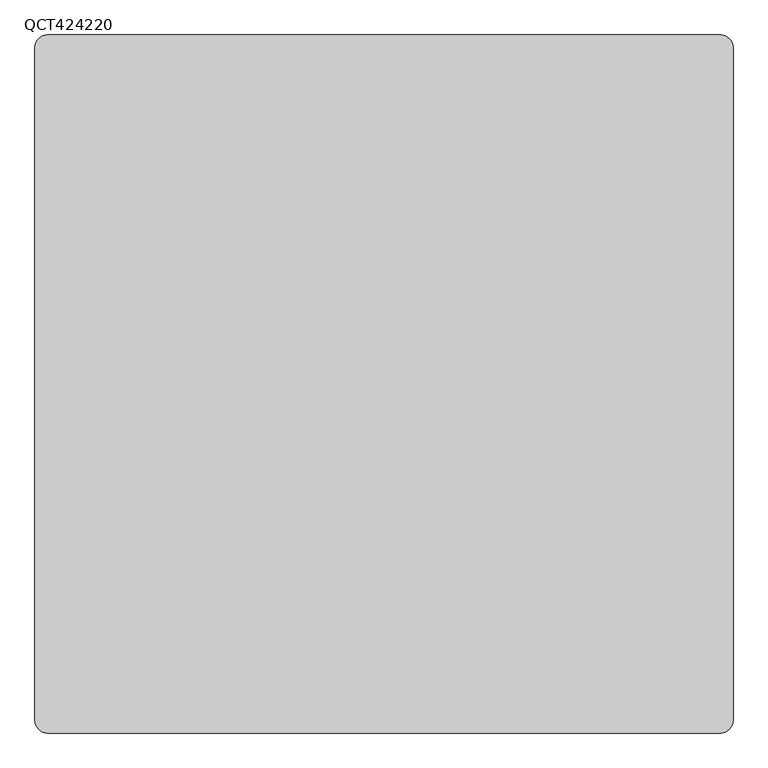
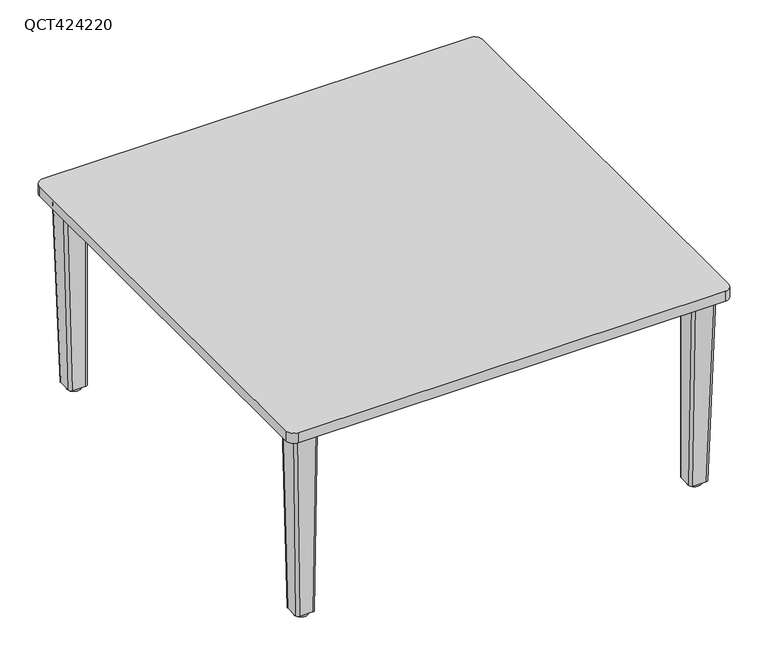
"""IFC4 building model written with IfcOpenShell, lengths in millimetres: furniture geometry, Leland-Quince-Table_Square : QCT424220."""

from ifc_helpers import new_model, si_unit, point, frame, frame_2d, origin, origin_with_axes, place, context, project, spatial, polyline, circle_curve, trimmed, segment, composite_curve, outline, extrude, source, transform, mapped, element, save
from ifc_brep_helpers import plane_surface, cylinder_surface, extruded_surface, advanced_brep


def qct424220_80bd4fbd(model_context):
    return source(origin(), model_context, "Body", "SolidModel", [
        advanced_brep(
        [(502.4299122, -451.6482078, 477.8487443), (457.9799122, -451.6482078, 477.8487443), (451.6299122, -457.9982078, 477.8487443), (451.6299122, -502.4482078, 477.8487443), (457.9799122, -508.7982078, 477.8487443), (502.4299122, -508.7982078, 477.8487443), (508.7799122, -502.4482078, 477.8487443), (508.7799122, -457.9982078, 477.8487443), (490.1392552, -451.6482078, 9.5377), (496.4892552, -457.9982078, 9.5377), (496.4892552, -490.1651364, 9.5377), (490.1392552, -496.5151364, 9.5377), (457.9799122, -496.5151364, 9.5377), (451.6299122, -490.1651364, 9.5377), (451.6299122, -457.9982078, 9.5377), (457.9799122, -451.6482078, 9.5377)],
        [
            (0, 1),
            (1, 2, circle_curve(frame((457.9799122, -457.9982078, 477.8487443), z_axis=(0.0, 0.0, 1.0), x_axis=(-1.0, 0.0, 0.0)), 6.35)),
            (2, 3),
            (3, 4, circle_curve(frame((457.9799122, -502.4482078, 477.8487443), z_axis=(0.0, 0.0, 1.0), x_axis=(-1.0, 0.0, 0.0)), 6.35)),
            (4, 5),
            (5, 6, circle_curve(frame((502.4299122, -502.4482078, 477.8487443), z_axis=(0.0, 0.0, 1.0), x_axis=(-1.0, 0.0, 0.0)), 6.35)),
            (6, 7),
            (7, 0, circle_curve(frame((502.4299122, -457.9982078, 477.8487443), z_axis=(0.0, 0.0, 1.0), x_axis=(-1.0, 0.0, 0.0)), 6.35)),
            (8, 9, circle_curve(frame((490.1392552, -457.9982078, 9.5377), z_axis=(0.0, 0.0, -1.0), x_axis=(-1.0, 0.0, 0.0)), 6.35)),
            (9, 10),
            (10, 11, circle_curve(frame((490.1392552, -490.1651364, 9.5377), z_axis=(0.0, 0.0, -1.0), x_axis=(-1.0, 0.0, 0.0)), 6.35)),
            (11, 12),
            (12, 13, circle_curve(frame((457.9799122, -490.1651364, 9.5377), z_axis=(0.0, 0.0, -1.0), x_axis=(-1.0, 0.0, 0.0)), 6.35)),
            (13, 14),
            (14, 15, circle_curve(frame((457.9799122, -457.9982078, 9.5377), z_axis=(0.0, 0.0, -1.0), x_axis=(-1.0, 0.0, 0.0)), 6.35)),
            (15, 8),
            (8, 0),
            (7, 9),
            (6, 10),
            (5, 11),
            (4, 12),
            (3, 13),
            (2, 14),
            (1, 15),
        ],
        [
            plane_surface(frame((480.2049122, -480.2232078, 477.8487443), z_axis=(0.0, 0.0, 1.0), x_axis=(1.0, 0.0, 0.0))),
            plane_surface(frame((474.0595837, -474.0816721, 9.5377), z_axis=(0.0, 0.0, -1.0), x_axis=(1.0, 0.0, 0.0))),
            extruded_surface(trimmed(circle_curve(frame((490.1392552, -457.9982078, 9.5377), z_axis=(0.0, 0.0, 1.0), x_axis=(-1.0, 0.0, 0.0)), 6.35), [point((496.4892552, -457.9982078, 9.5377))], [point((490.1392552, -451.6482078, 9.5377))], True, "CARTESIAN"), (12.29065700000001, 0.0, 468.31104430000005), 468.47229850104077),
            plane_surface(frame((496.4892552, -474.0816721, 9.5377), z_axis=(0.9996557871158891, 0.0, -0.026235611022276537), x_axis=(0.0, 1.0, 0.0))),
            extruded_surface(trimmed(circle_curve(frame((490.1392552, -490.1651364, 9.5377), z_axis=(0.0, 0.0, 1.0), x_axis=(-1.0, 0.0, 0.0)), 6.35), [point((490.1392552, -496.5151364, 9.5377))], [point((496.4892552, -490.1651364, 9.5377))], True, "CARTESIAN"), (12.29065700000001, -12.283071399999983, 468.31104430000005), 468.63329833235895),
            plane_surface(frame((474.0595837, -496.5151364, 9.5377), z_axis=(0.0, -0.9996562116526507, -0.026219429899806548), x_axis=(1.0, 0.0, 0.0))),
            extruded_surface(trimmed(circle_curve(frame((457.9799122, -490.1651364, 9.5377), z_axis=(0.0, 0.0, 1.0), x_axis=(-1.0, 0.0, 0.0)), 6.35), [point((451.6299122, -490.1651364, 9.5377))], [point((457.9799122, -496.5151364, 9.5377))], True, "CARTESIAN"), (0.0, -12.283071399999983, 468.31104430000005), 468.47209954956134),
            plane_surface(frame((451.6299122, -474.0816721, 9.5377), z_axis=(-1.0, 0.0, 0.0), x_axis=(0.0, -1.0, 0.0))),
            cylinder_surface(frame((457.9799122, -457.9982078, 9.5377), z_axis=(0.0, 0.0, 1.0), x_axis=(-1.0, 0.0, 0.0)), 6.35),
            plane_surface(frame((474.0595837, -451.6482078, 9.5377), z_axis=(0.0, 1.0, 0.0), x_axis=(-1.0, 0.0, 0.0))),
        ],
        [
            (0, [[1, 2, 3, 4, 5, 6, 7, 8]]),
            (1, [[9, 10, 11, 12, 13, 14, 15, 16]]),
            (2, [[-9, 17, -8, 18]]),
            (3, [[-10, -18, -7, 19]]),
            (4, [[-11, -19, -6, 20]]),
            (5, [[-12, -20, -5, 21]]),
            (6, [[-13, -21, -4, 22]]),
            (7, [[-14, -22, -3, 23]]),
            (8, [[-15, -23, -2, 24]]),
            (9, [[-16, -24, -1, -17]]),
        ],
    ),
        advanced_brep(
        [(-502.4299122, -451.6482078, 477.8487443), (-508.7799122, -457.9982078, 477.8487443), (-508.7799122, -502.4482078, 477.8487443), (-502.4299122, -508.7982078, 477.8487443), (-457.9799122, -508.7982078, 477.8487443), (-451.6299122, -502.4482078, 477.8487443), (-451.6299122, -457.9982078, 477.8487443), (-457.9799122, -451.6482078, 477.8487443), (-490.1392552, -451.6482078, 9.5377), (-457.9799122, -451.6482078, 9.5377), (-451.6299122, -457.9982078, 9.5377), (-451.6299122, -490.1651364, 9.5377), (-457.9799122, -496.5151364, 9.5377), (-490.1392552, -496.5151364, 9.5377), (-496.4892552, -490.1651364, 9.5377), (-496.4892552, -457.9982078, 9.5377)],
        [
            (0, 1, circle_curve(frame((-502.4299122, -457.9982078, 477.8487443), z_axis=(0.0, 0.0, 1.0), x_axis=(1.0, 0.0, 0.0)), 6.35)),
            (1, 2),
            (2, 3, circle_curve(frame((-502.4299122, -502.4482078, 477.8487443), z_axis=(0.0, 0.0, 1.0), x_axis=(1.0, 0.0, 0.0)), 6.35)),
            (3, 4),
            (4, 5, circle_curve(frame((-457.9799122, -502.4482078, 477.8487443), z_axis=(0.0, 0.0, 1.0), x_axis=(1.0, 0.0, 0.0)), 6.35)),
            (5, 6),
            (6, 7, circle_curve(frame((-457.9799122, -457.9982078, 477.8487443), z_axis=(0.0, 0.0, 1.0), x_axis=(0.0, 1.0, 0.0)), 6.35)),
            (7, 0),
            (8, 9),
            (9, 10, circle_curve(frame((-457.9799122, -457.9982078, 9.5377), z_axis=(0.0, 0.0, -1.0), x_axis=(0.0, 1.0, 0.0)), 6.35)),
            (10, 11),
            (11, 12, circle_curve(frame((-457.9799122, -490.1651364, 9.5377), z_axis=(0.0, 0.0, -1.0), x_axis=(1.0, 0.0, 0.0)), 6.35)),
            (12, 13),
            (13, 14, circle_curve(frame((-490.1392552, -490.1651364, 9.5377), z_axis=(0.0, 0.0, -1.0), x_axis=(1.0, 0.0, 0.0)), 6.35)),
            (14, 15),
            (15, 8, circle_curve(frame((-490.1392552, -457.9982078, 9.5377), z_axis=(0.0, 0.0, -1.0), x_axis=(1.0, 0.0, 0.0)), 6.35)),
            (15, 1),
            (0, 8),
            (14, 2),
            (13, 3),
            (12, 4),
            (11, 5),
            (10, 6),
            (9, 7),
        ],
        [
            plane_surface(frame((-480.2049122, -480.2232078, 477.8487443), z_axis=(0.0, 0.0, 1.0), x_axis=(1.0, 0.0, 0.0))),
            plane_surface(frame((-474.0595837, -474.0816721, 9.5377), z_axis=(0.0, 0.0, -1.0), x_axis=(1.0, 0.0, 0.0))),
            extruded_surface(trimmed(circle_curve(frame((-490.1392552, -457.9982078, 9.5377), z_axis=(0.0, 0.0, 1.0), x_axis=(1.0, 0.0, 0.0)), 6.35), [point((-490.1392552, -451.6482078, 9.5377))], [point((-496.4892552, -457.9982078, 9.5377))], True, "CARTESIAN"), (-12.29065700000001, 0.0, 468.31104430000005), 468.47229850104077),
            plane_surface(frame((-496.4892552, -474.0816721, 9.5377), z_axis=(-0.9996557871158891, 0.0, -0.026235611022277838), x_axis=(0.0, -1.0, 0.0))),
            extruded_surface(trimmed(circle_curve(frame((-490.1392552, -490.1651364, 9.5377), z_axis=(0.0, 0.0, 1.0), x_axis=(1.0, 0.0, 0.0)), 6.35), [point((-496.4892552, -490.1651364, 9.5377))], [point((-490.1392552, -496.5151364, 9.5377))], True, "CARTESIAN"), (-12.29065700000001, -12.283071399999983, 468.31104430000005), 468.63329833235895),
            plane_surface(frame((-474.0595837, -496.5151364, 9.5377), z_axis=(0.0, -0.9996562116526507, -0.026219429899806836), x_axis=(1.0, 0.0, 0.0))),
            extruded_surface(trimmed(circle_curve(frame((-457.9799122, -490.1651364, 9.5377), z_axis=(0.0, 0.0, 1.0), x_axis=(1.0, 0.0, 0.0)), 6.35), [point((-457.9799122, -496.5151364, 9.5377))], [point((-451.6299122, -490.1651364, 9.5377))], True, "CARTESIAN"), (0.0, -12.283071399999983, 468.31104430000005), 468.47209954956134),
            plane_surface(frame((-451.6299122, -474.0816721, 9.5377), z_axis=(1.0, 0.0, 0.0), x_axis=(0.0, 1.0, 0.0))),
            cylinder_surface(frame((-457.9799122, -457.9982078, 9.5377), z_axis=(0.0, 0.0, 1.0), x_axis=(0.0, 1.0, 0.0)), 6.35),
            plane_surface(frame((-474.0595837, -451.6482078, 9.5377), z_axis=(0.0, 1.0, 0.0), x_axis=(-1.0, 0.0, 0.0))),
        ],
        [
            (0, [[1, 2, 3, 4, 5, 6, 7, 8]]),
            (1, [[9, 10, 11, 12, 13, 14, 15, 16]]),
            (2, [[-16, 17, -1, 18]]),
            (3, [[-15, 19, -2, -17]]),
            (4, [[-14, 20, -3, -19]]),
            (5, [[-13, 21, -4, -20]]),
            (6, [[-12, 22, -5, -21]]),
            (7, [[-11, 23, -6, -22]]),
            (8, [[-10, 24, -7, -23]]),
            (9, [[-9, -18, -8, -24]]),
        ],
    ),
        advanced_brep(
        [(502.4299122, 451.6482078, 477.8487443), (508.7799122, 457.9982078, 477.8487443), (508.7799122, 502.4482078, 477.8487443), (502.4299122, 508.7982078, 477.8487443), (457.9799122, 508.7982078, 477.8487443), (451.6299122, 502.4482078, 477.8487443), (451.6299122, 457.9982078, 477.8487443), (457.9799122, 451.6482078, 477.8487443), (490.1392552, 451.6482078, 9.5377), (457.9799122, 451.6482078, 9.5377), (451.6299122, 457.9982078, 9.5377), (451.6299122, 490.1651364, 9.5377), (457.9799122, 496.5151364, 9.5377), (490.1392552, 496.5151364, 9.5377), (496.4892552, 490.1651364, 9.5377), (496.4892552, 457.9982078, 9.5377)],
        [
            (0, 1, circle_curve(frame((502.4299122, 457.9982078, 477.8487443), z_axis=(0.0, 0.0, 1.0), x_axis=(-1.0, 0.0, 0.0)), 6.35)),
            (1, 2),
            (2, 3, circle_curve(frame((502.4299122, 502.4482078, 477.8487443), z_axis=(0.0, 0.0, 1.0), x_axis=(-1.0, 0.0, 0.0)), 6.35)),
            (3, 4),
            (4, 5, circle_curve(frame((457.9799122, 502.4482078, 477.8487443), z_axis=(0.0, 0.0, 1.0), x_axis=(-1.0, 0.0, 0.0)), 6.35)),
            (5, 6),
            (6, 7, circle_curve(frame((457.9799122, 457.9982078, 477.8487443), z_axis=(0.0, 0.0, 1.0), x_axis=(0.0, -1.0, 0.0)), 6.35)),
            (7, 0),
            (8, 9),
            (9, 10, circle_curve(frame((457.9799122, 457.9982078, 9.5377), z_axis=(0.0, 0.0, -1.0), x_axis=(0.0, -1.0, 0.0)), 6.35)),
            (10, 11),
            (11, 12, circle_curve(frame((457.9799122, 490.1651364, 9.5377), z_axis=(0.0, 0.0, -1.0), x_axis=(-1.0, 0.0, 0.0)), 6.35)),
            (12, 13),
            (13, 14, circle_curve(frame((490.1392552, 490.1651364, 9.5377), z_axis=(0.0, 0.0, -1.0), x_axis=(-1.0, 0.0, 0.0)), 6.35)),
            (14, 15),
            (15, 8, circle_curve(frame((490.1392552, 457.9982078, 9.5377), z_axis=(0.0, 0.0, -1.0), x_axis=(-1.0, 0.0, 0.0)), 6.35)),
            (15, 1),
            (0, 8),
            (14, 2),
            (13, 3),
            (12, 4),
            (11, 5),
            (10, 6),
            (9, 7),
        ],
        [
            plane_surface(frame((480.2049122, 480.2232078, 477.8487443), z_axis=(0.0, 0.0, 1.0), x_axis=(-1.0, 0.0, 0.0))),
            plane_surface(frame((474.0595837, 474.0816721, 9.5377), z_axis=(0.0, 0.0, -1.0), x_axis=(-1.0, 0.0, 0.0))),
            extruded_surface(trimmed(circle_curve(frame((490.1392552, 457.9982078, 9.5377), z_axis=(0.0, 0.0, 1.0), x_axis=(-1.0, 0.0, 0.0)), 6.35), [point((490.1392552, 451.6482078, 9.5377))], [point((496.4892552, 457.9982078, 9.5377))], True, "CARTESIAN"), (12.29065700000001, 0.0, 468.31104430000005), 468.47229850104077),
            plane_surface(frame((496.4892552, 474.0816721, 9.5377), z_axis=(0.9996557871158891, 0.0, -0.02623561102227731), x_axis=(0.0, 1.0, 0.0))),
            extruded_surface(trimmed(circle_curve(frame((490.1392552, 490.1651364, 9.5377), z_axis=(0.0, 0.0, 1.0), x_axis=(-1.0, 0.0, 0.0)), 6.35), [point((496.4892552, 490.1651364, 9.5377))], [point((490.1392552, 496.5151364, 9.5377))], True, "CARTESIAN"), (12.29065700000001, 12.283071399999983, 468.31104430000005), 468.63329833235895),
            plane_surface(frame((474.0595837, 496.5151364, 9.5377), z_axis=(0.0, 0.9996562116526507, -0.026219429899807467), x_axis=(-1.0, 0.0, 0.0))),
            extruded_surface(trimmed(circle_curve(frame((457.9799122, 490.1651364, 9.5377), z_axis=(0.0, 0.0, 1.0), x_axis=(-1.0, 0.0, 0.0)), 6.35), [point((457.9799122, 496.5151364, 9.5377))], [point((451.6299122, 490.1651364, 9.5377))], True, "CARTESIAN"), (0.0, 12.283071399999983, 468.31104430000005), 468.47209954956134),
            plane_surface(frame((451.6299122, 474.0816721, 9.5377), z_axis=(-1.0, 0.0, 0.0), x_axis=(0.0, -1.0, 0.0))),
            cylinder_surface(frame((457.9799122, 457.9982078, 9.5377), z_axis=(0.0, 0.0, 1.0), x_axis=(0.0, -1.0, 0.0)), 6.35),
            plane_surface(frame((474.0595837, 451.6482078, 9.5377), z_axis=(0.0, -1.0, 0.0), x_axis=(1.0, 0.0, 0.0))),
        ],
        [
            (0, [[1, 2, 3, 4, 5, 6, 7, 8]]),
            (1, [[9, 10, 11, 12, 13, 14, 15, 16]]),
            (2, [[-16, 17, -1, 18]]),
            (3, [[-15, 19, -2, -17]]),
            (4, [[-14, 20, -3, -19]]),
            (5, [[-13, 21, -4, -20]]),
            (6, [[-12, 22, -5, -21]]),
            (7, [[-11, 23, -6, -22]]),
            (8, [[-10, 24, -7, -23]]),
            (9, [[-9, -18, -8, -24]]),
        ],
    ),
        extrude(outline(composite_curve([segment(trimmed(circle_curve(frame_2d((-474.0595837, 474.0816721)), 16.66875), [point((-490.7283337, 474.0816721))], [point((-457.3908337, 474.0816721))], False, "CARTESIAN"), True, "CONTINUOUS"), segment(trimmed(circle_curve(frame_2d((-474.0595837, 474.0816721)), 16.66875), [point((-457.3908337, 474.0816721))], [point((-490.7283337, 474.0816721))], False, "CARTESIAN"), True, "CONTINUOUS")], self_intersect=False)), origin_with_axes(), (0.0, 0.0, 1.0), 9.5377),
        extrude(outline(composite_curve([segment(trimmed(circle_curve(frame_2d((474.0595837, 474.0816721)), 16.66875), [point((457.3908337, 474.0816721))], [point((490.7283337, 474.0816721))], False, "CARTESIAN"), True, "CONTINUOUS"), segment(trimmed(circle_curve(frame_2d((474.0595837, 474.0816721)), 16.66875), [point((490.7283337, 474.0816721))], [point((457.3908337, 474.0816721))], False, "CARTESIAN"), True, "CONTINUOUS")], self_intersect=False)), origin_with_axes(), (0.0, 0.0, 1.0), 9.5377),
        extrude(outline(composite_curve([segment(trimmed(circle_curve(frame_2d((-474.0595837, -474.0816721)), 16.66875), [point((-490.7283337, -474.0816721))], [point((-457.3908337, -474.0816721))], False, "CARTESIAN"), True, "CONTINUOUS"), segment(trimmed(circle_curve(frame_2d((-474.0595837, -474.0816721)), 16.66875), [point((-457.3908337, -474.0816721))], [point((-490.7283337, -474.0816721))], False, "CARTESIAN"), True, "CONTINUOUS")], self_intersect=False)), origin_with_axes(), (0.0, 0.0, 1.0), 9.5377),
        extrude(outline(composite_curve([segment(trimmed(circle_curve(frame_2d((474.0595837, -474.0816721)), 16.66875), [point((457.3908337, -474.0816721))], [point((490.7283337, -474.0816721))], False, "CARTESIAN"), True, "CONTINUOUS"), segment(trimmed(circle_curve(frame_2d((474.0595837, -474.0816721)), 16.66875), [point((490.7283337, -474.0816721))], [point((457.3908337, -474.0816721))], False, "CARTESIAN"), True, "CONTINUOUS")], self_intersect=False)), origin_with_axes(), (0.0, 0.0, 1.0), 9.5377),
        extrude(outline(polyline([(-404.01875, 505.61875), (-404.01875, 404.01875), (-505.61875, 404.01875), (-505.61875, 505.61875), (-404.01875, 505.61875)])), frame((0.0, 0.0, 477.8487443), z_axis=(0.0, 0.0, 1.0), x_axis=(1.0, 0.0, 0.0)), (0.0, 0.0, 1.0), 4.7625),
        extrude(outline(polyline([(404.01875, 505.61875), (505.61875, 505.61875), (505.61875, 404.01875), (404.01875, 404.01875), (404.01875, 505.61875)])), frame((0.0, 0.0, 477.8487443), z_axis=(0.0, 0.0, 1.0), x_axis=(1.0, 0.0, 0.0)), (0.0, 0.0, 1.0), 4.7625),
        extrude(outline(polyline([(-404.01875, -505.61875), (-505.61875, -505.61875), (-505.61875, -404.01875), (-404.01875, -404.01875), (-404.01875, -505.61875)])), frame((0.0, 0.0, 477.8487443), z_axis=(0.0, 0.0, 1.0), x_axis=(1.0, 0.0, 0.0)), (0.0, 0.0, 1.0), 4.7625),
        extrude(outline(polyline([(404.01875, -505.61875), (404.01875, -404.01875), (505.61875, -404.01875), (505.61875, -505.61875), (404.01875, -505.61875)])), frame((0.0, 0.0, 477.8487443), z_axis=(0.0, 0.0, 1.0), x_axis=(1.0, 0.0, 0.0)), (0.0, 0.0, 1.0), 4.7625),
        advanced_brep(
        [(-502.4299122, 451.6482078, 477.8487443), (-457.9799122, 451.6482078, 477.8487443), (-451.6299122, 457.9982078, 477.8487443), (-451.6299122, 502.4482078, 477.8487443), (-457.9799122, 508.7982078, 477.8487443), (-502.4299122, 508.7982078, 477.8487443), (-508.7799122, 502.4482078, 477.8487443), (-508.7799122, 457.9982078, 477.8487443), (-490.1392552, 451.6482078, 9.5377), (-496.4892552, 457.9982078, 9.5377), (-496.4892552, 490.1651364, 9.5377), (-490.1392552, 496.5151364, 9.5377), (-457.9799122, 496.5151364, 9.5377), (-451.6299122, 490.1651364, 9.5377), (-451.6299122, 457.9982078, 9.5377), (-457.9799122, 451.6482078, 9.5377)],
        [
            (0, 1),
            (1, 2, circle_curve(frame((-457.9799122, 457.9982078, 477.8487443), z_axis=(0.0, 0.0, 1.0), x_axis=(1.0, 0.0, 0.0)), 6.35)),
            (2, 3),
            (3, 4, circle_curve(frame((-457.9799122, 502.4482078, 477.8487443), z_axis=(0.0, 0.0, 1.0), x_axis=(1.0, 0.0, 0.0)), 6.35)),
            (4, 5),
            (5, 6, circle_curve(frame((-502.4299122, 502.4482078, 477.8487443), z_axis=(0.0, 0.0, 1.0), x_axis=(1.0, 0.0, 0.0)), 6.35)),
            (6, 7),
            (7, 0, circle_curve(frame((-502.4299122, 457.9982078, 477.8487443), z_axis=(0.0, 0.0, 1.0), x_axis=(1.0, 0.0, 0.0)), 6.35)),
            (8, 9, circle_curve(frame((-490.1392552, 457.9982078, 9.5377), z_axis=(0.0, 0.0, -1.0), x_axis=(1.0, 0.0, 0.0)), 6.35)),
            (9, 10),
            (10, 11, circle_curve(frame((-490.1392552, 490.1651364, 9.5377), z_axis=(0.0, 0.0, -1.0), x_axis=(1.0, 0.0, 0.0)), 6.35)),
            (11, 12),
            (12, 13, circle_curve(frame((-457.9799122, 490.1651364, 9.5377), z_axis=(0.0, 0.0, -1.0), x_axis=(1.0, 0.0, 0.0)), 6.35)),
            (13, 14),
            (14, 15, circle_curve(frame((-457.9799122, 457.9982078, 9.5377), z_axis=(0.0, 0.0, -1.0), x_axis=(1.0, 0.0, 0.0)), 6.35)),
            (15, 8),
            (8, 0),
            (7, 9),
            (6, 10),
            (5, 11),
            (4, 12),
            (3, 13),
            (2, 14),
            (1, 15),
        ],
        [
            plane_surface(frame((-480.2049122, 480.2232078, 477.8487443), z_axis=(0.0, 0.0, 1.0), x_axis=(-1.0, 0.0, 0.0))),
            plane_surface(frame((-474.0595837, 474.0816721, 9.5377), z_axis=(0.0, 0.0, -1.0), x_axis=(-1.0, 0.0, 0.0))),
            extruded_surface(trimmed(circle_curve(frame((-490.1392552, 457.9982078, 9.5377), z_axis=(0.0, 0.0, 1.0), x_axis=(1.0, 0.0, 0.0)), 6.35), [point((-496.4892552, 457.9982078, 9.5377))], [point((-490.1392552, 451.6482078, 9.5377))], True, "CARTESIAN"), (-12.29065700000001, 0.0, 468.31104430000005), 468.47229850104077),
            plane_surface(frame((-496.4892552, 474.0816721, 9.5377), z_axis=(-0.9996557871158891, 0.0, -0.02623561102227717), x_axis=(0.0, -1.0, 0.0))),
            extruded_surface(trimmed(circle_curve(frame((-490.1392552, 490.1651364, 9.5377), z_axis=(0.0, 0.0, 1.0), x_axis=(1.0, 0.0, 0.0)), 6.35), [point((-490.1392552, 496.5151364, 9.5377))], [point((-496.4892552, 490.1651364, 9.5377))], True, "CARTESIAN"), (-12.29065700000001, 12.283071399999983, 468.31104430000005), 468.63329833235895),
            plane_surface(frame((-474.0595837, 496.5151364, 9.5377), z_axis=(0.0, 0.9996562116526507, -0.02621942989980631), x_axis=(-1.0, 0.0, 0.0))),
            extruded_surface(trimmed(circle_curve(frame((-457.9799122, 490.1651364, 9.5377), z_axis=(0.0, 0.0, 1.0), x_axis=(1.0, 0.0, 0.0)), 6.35), [point((-451.6299122, 490.1651364, 9.5377))], [point((-457.9799122, 496.5151364, 9.5377))], True, "CARTESIAN"), (0.0, 12.283071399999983, 468.31104430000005), 468.47209954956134),
            plane_surface(frame((-451.6299122, 474.0816721, 9.5377), z_axis=(1.0, 0.0, 0.0), x_axis=(0.0, 1.0, 0.0))),
            cylinder_surface(frame((-457.9799122, 457.9982078, 9.5377), z_axis=(0.0, 0.0, 1.0), x_axis=(1.0, 0.0, 0.0)), 6.35),
            plane_surface(frame((-474.0595837, 451.6482078, 9.5377), z_axis=(0.0, -1.0, 0.0), x_axis=(1.0, 0.0, 0.0))),
        ],
        [
            (0, [[1, 2, 3, 4, 5, 6, 7, 8]]),
            (1, [[9, 10, 11, 12, 13, 14, 15, 16]]),
            (2, [[-9, 17, -8, 18]]),
            (3, [[-10, -18, -7, 19]]),
            (4, [[-11, -19, -6, 20]]),
            (5, [[-12, -20, -5, 21]]),
            (6, [[-13, -21, -4, 22]]),
            (7, [[-14, -22, -3, 23]]),
            (8, [[-15, -23, -2, 24]]),
            (9, [[-16, -24, -1, -17]]),
        ],
    ),
        extrude(outline(composite_curve([segment(trimmed(circle_curve(frame_2d((514.35, 514.35)), 19.05), [point((514.35, 533.4))], [point((533.4, 514.35))], False, "CARTESIAN"), True, "CONTINUOUS"), segment(polyline([(533.4, 514.35), (533.4, -514.35)]), True, "CONTINUOUS"), segment(trimmed(circle_curve(frame_2d((514.35, -514.35)), 19.05), [point((533.4, -514.35))], [point((514.35, -533.4))], False, "CARTESIAN"), True, "CONTINUOUS"), segment(polyline([(514.35, -533.4), (-514.35, -533.4)]), True, "CONTINUOUS"), segment(trimmed(circle_curve(frame_2d((-514.35, -514.35)), 19.05), [point((-514.35, -533.4))], [point((-533.4, -514.35))], False, "CARTESIAN"), True, "CONTINUOUS"), segment(polyline([(-533.4, -514.35), (-533.4, 514.35)]), True, "CONTINUOUS"), segment(trimmed(circle_curve(frame_2d((-514.35, 514.35)), 19.05), [point((-533.4, 514.35))], [point((-514.35, 533.4))], False, "CARTESIAN"), True, "CONTINUOUS"), segment(polyline([(-514.35, 533.4), (514.35, 533.4)]), True, "CONTINUOUS")], self_intersect=False)), frame((0.0, 0.0, 482.6112443), z_axis=(0.0, 0.0, 1.0), x_axis=(1.0, 0.0, 0.0)), (0.0, 0.0, 1.0), 25.3887557),
    ])


if __name__ == "__main__":
    model = new_model("IFC4")
    model_context = context("Model", 3, world=origin())
    ifc_project = project(units=[si_unit("LENGTHUNIT", "METRE", prefix="MILLI")], contexts=[model_context])
    site = spatial("IfcSite", under=ifc_project)
    building = spatial("IfcBuilding", under=site)
    placement = place(None, origin())
    qct424220_shape = qct424220_80bd4fbd(model_context)
    element("IfcFurniture", 1, ObjectType="Leland-Quince-Table_Square : QCT424220", at=placement, inside=building, context=model_context, shape_type="MappedRepresentation", body=[
        mapped(qct424220_shape, transform((0.0, 0.0, 0.0), x_axis=(1.0, 0.0, 0.0), y_axis=(0.0, 1.0, 0.0), z_axis=(0.0, 0.0, 1.0))),
    ])
    save(model, "model.ifc")
